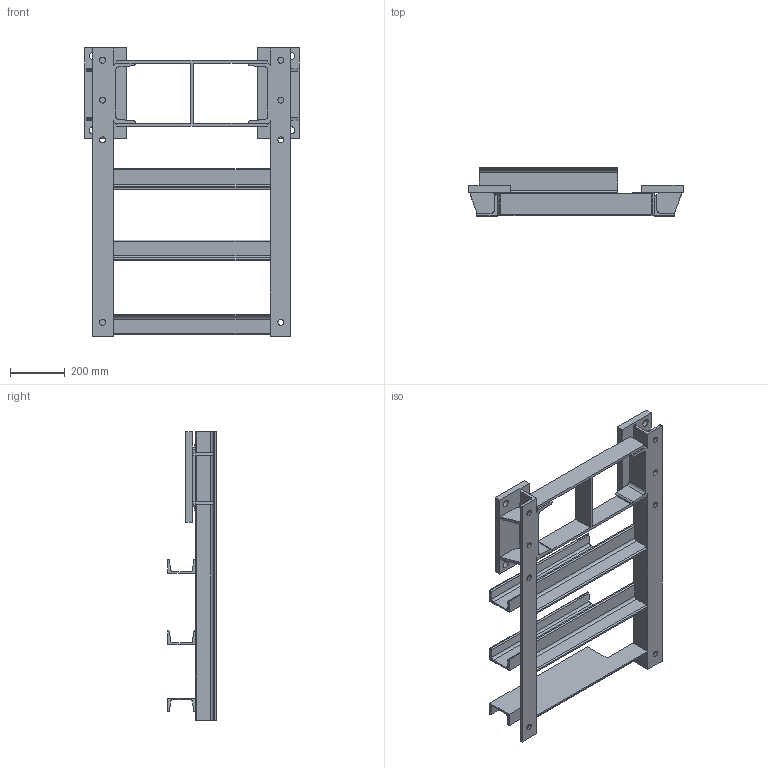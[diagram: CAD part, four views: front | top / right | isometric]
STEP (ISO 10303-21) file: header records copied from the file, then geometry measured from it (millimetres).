
FILE_DESCRIPTION(/* description */ (''),/* implementation_level */ '2;1');
FILE_NAME(/* name */ 'K:\NEMANJA\0700-6\CABLE REEL PART\0700-6\11 DMF\STEP\DMF-GB50-01KV.stp',/* time_stamp */ '2017-11-30T18:16:49+01:00',/* author */ ('zeldjo01'),/* organization */ ('Hillmar Industries Ltd.'),/* preprocessor_version */ 'ST-DEVELOPER v16.1',/* originating_system */ 'Autodesk Inventor 2016',/* authorisation */ '');
FILE_SCHEMA (('AUTOMOTIVE_DESIGN { 1 0 10303 214 3 1 1 }'));
Length unit declared in the file: millimetre
Products named in the file (1): DMF-GB50-01KV_Shrinkwrap_1
Bounding box: 780 x 176 x 1050 mm (x, y, z)
Volume: 11629386.2 mm3; surface area: 2092860.9 mm2
Topology: 1 solids, 1 shells, 204 faces, 629 edges, 405 vertices
Faces by surface type: plane 157, cylinder 47
Full cylindrical faces by diameter (mm): 22 x8, 27 x4
Entity records: 7074 total; most frequent: ORIENTED_EDGE 1210, CARTESIAN_POINT 1203, DIRECTION 1113, EDGE_CURVE 605, LINE 507, VECTOR 507, VERTEX_POINT 393, AXIS2_PLACEMENT_3D 303
